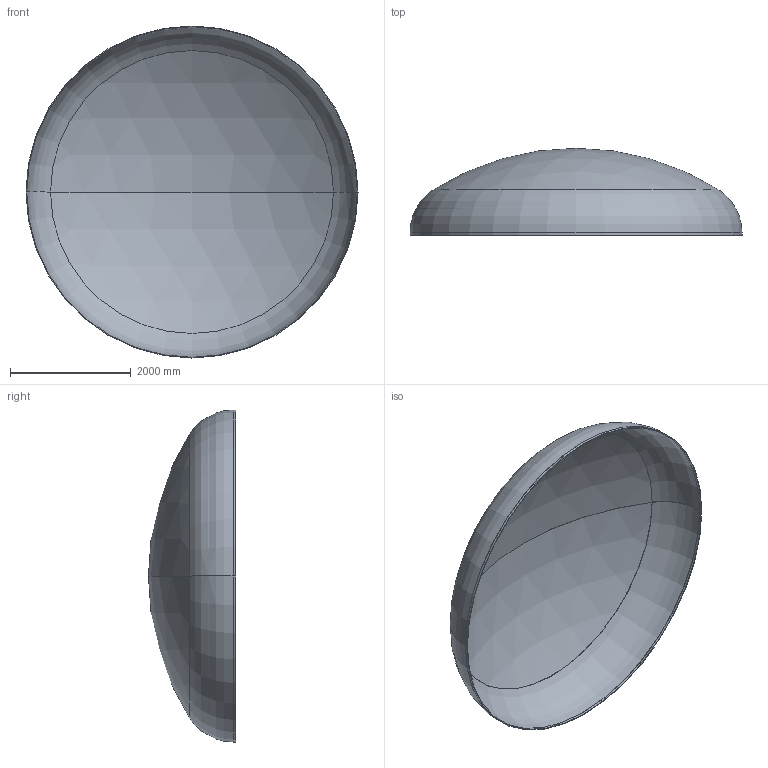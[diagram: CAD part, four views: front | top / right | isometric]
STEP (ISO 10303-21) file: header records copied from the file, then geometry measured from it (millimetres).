
FILE_DESCRIPTION (( 'STEP AP203' ), '1' );
FILE_NAME ('DIN 28013 Korbbogenform_-_Boden DIN 28013 - 5500 x 40 - I - s=11.step', '2016-07-04T10:33:34', ( '' ), ( '' ), 'SwSTEP 2.0', 'SolidWorks 2013', '' );
FILE_SCHEMA (( 'CONFIG_CONTROL_DESIGN' ));
Length unit declared in the file: millimetre
Products named in the file (1): DIN 28013 Korbbogenform_-_Boden DIN 28013 - 5500 x 40 - I - s=11
Bounding box: 5500 x 1442.55 x 5500 mm (x, y, z)
Volume: 368453146.3 mm3; surface area: 67181393.1 mm2
Topology: 1 solids, 1 shells, 13 faces, 24 edges, 14 vertices
Faces by surface type: torus 4, cylinder 4, sphere 4, plane 1
Entity records: 407 total; most frequent: DIRECTION 72, CARTESIAN_POINT 52, ORIENTED_EDGE 48, AXIS2_PLACEMENT_3D 34, EDGE_CURVE 24, CIRCLE 20, EDGE_LOOP 14, VERTEX_POINT 14
